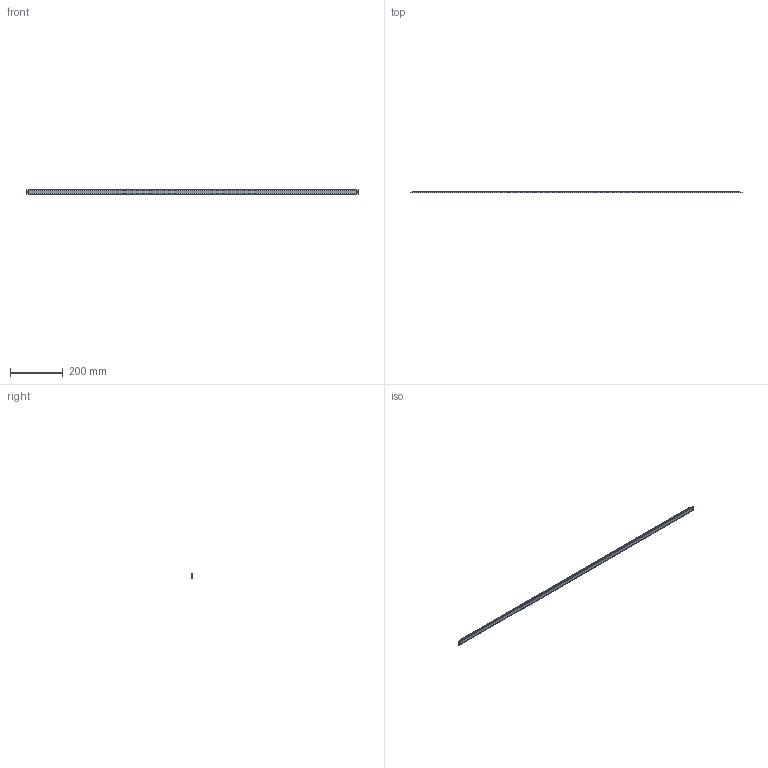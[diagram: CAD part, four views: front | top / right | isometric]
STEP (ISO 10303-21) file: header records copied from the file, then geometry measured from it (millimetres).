
FILE_DESCRIPTION (( 'STEP AP214' ), '1' );
FILE_NAME ('HLMScale.ScaleLength1260.STEP', '2023-02-07T05:55:17', ( '' ), ( '' ), 'SwSTEP 2.0', 'SolidWorks 2020', '' );
FILE_SCHEMA (( 'AUTOMOTIVE_DESIGN' ));
Length unit declared in the file: millimetre
Products named in the file (1): HLMScale.ScaleLength1260
Bounding box: 1260 x 6.08 x 18 mm (x, y, z)
Volume: 126877.4 mm3; surface area: 69615.1 mm2
Topology: 1 solids, 1 shells, 56 faces, 149 edges, 98 vertices
Faces by surface type: plane 31, cylinder 25
Entity records: 1857 total; most frequent: CARTESIAN_POINT 412, ORIENTED_EDGE 298, DIRECTION 285, EDGE_CURVE 149, VECTOR 103, LINE 103, VERTEX_POINT 98, AXIS2_PLACEMENT_3D 91
